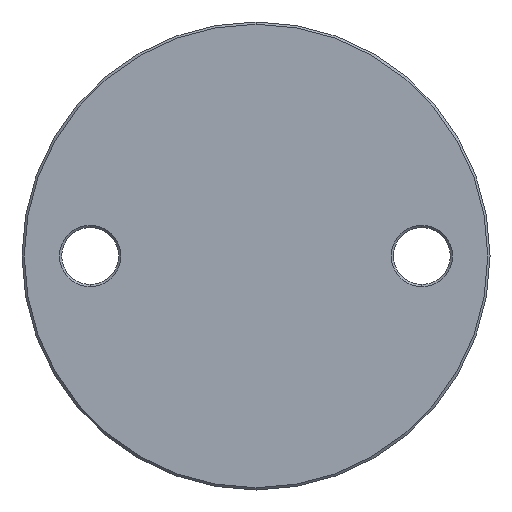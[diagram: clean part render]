
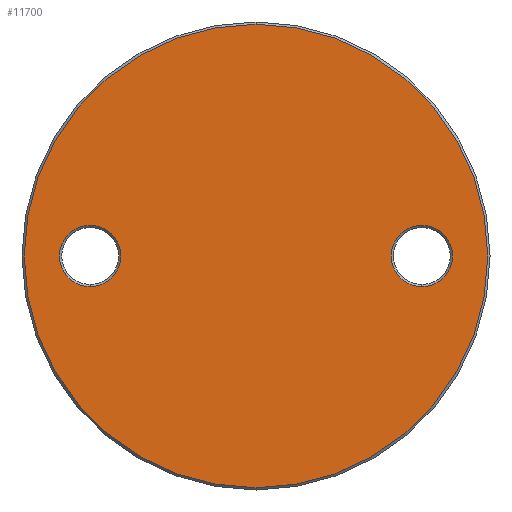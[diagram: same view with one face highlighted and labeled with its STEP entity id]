
A CAD part, front view. The second image highlights one B-rep face of the part: STEP entity #11700.
In plain terms, the highlighted planar face has unit normal (0, -1, 0).
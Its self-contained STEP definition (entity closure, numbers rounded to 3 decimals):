
#62 = EDGE_CURVE ( 'NONE', #4190, #419, #11125, .T. ) ;
#189 = FACE_BOUND ( 'NONE', #3993, .T. ) ;
#232 = DIRECTION ( 'NONE',  ( 0., -1., 0. ) ) ;
#270 = PLANE ( 'NONE',  #1344 ) ;
#334 = EDGE_CURVE ( 'NONE', #2981, #1339, #8506, .T. ) ;
#388 = AXIS2_PLACEMENT_3D ( 'NONE', #7726, #8601, #1216 ) ;
#419 = VERTEX_POINT ( 'NONE', #4248 ) ;
#458 = CARTESIAN_POINT ( 'NONE',  ( 0., -3., -51. ) ) ;
#492 = CARTESIAN_POINT ( 'NONE',  ( 0., -3., 51. ) ) ;
#817 = DIRECTION ( 'NONE',  ( 0., 0., -1. ) ) ;
#1216 = DIRECTION ( 'NONE',  ( 0., 0., -1. ) ) ;
#1271 = CARTESIAN_POINT ( 'NONE',  ( 36.5, -3., 6.75 ) ) ;
#1339 = VERTEX_POINT ( 'NONE', #1271 ) ;
#1344 = AXIS2_PLACEMENT_3D ( 'NONE', #5863, #232, #7679 ) ;
#1417 = ORIENTED_EDGE ( 'NONE', *, *, #4064, .T. ) ;
#1660 = DIRECTION ( 'NONE',  ( 0., 0., -1. ) ) ;
#1758 = CIRCLE ( 'NONE', #6139, 51. ) ;
#1779 = DIRECTION ( 'NONE',  ( 0., 1., 0. ) ) ;
#1796 = DIRECTION ( 'NONE',  ( 0., 0., -1. ) ) ;
#1900 = CARTESIAN_POINT ( 'NONE',  ( -36.5, -3., -6.75 ) ) ;
#2246 = CIRCLE ( 'NONE', #7119, 6.75 ) ;
#2266 = CARTESIAN_POINT ( 'NONE',  ( 36.5, -3., 0. ) ) ;
#2981 = VERTEX_POINT ( 'NONE', #9883 ) ;
#3067 = FACE_OUTER_BOUND ( 'NONE', #9411, .T. ) ;
#3993 = EDGE_LOOP ( 'NONE', ( #5553, #4461 ) ) ;
#4064 = EDGE_CURVE ( 'NONE', #419, #4190, #11148, .T. ) ;
#4190 = VERTEX_POINT ( 'NONE', #1900 ) ;
#4248 = CARTESIAN_POINT ( 'NONE',  ( -36.5, -3., 6.75 ) ) ;
#4337 = CARTESIAN_POINT ( 'NONE',  ( -36.5, -3., 0. ) ) ;
#4461 = ORIENTED_EDGE ( 'NONE', *, *, #8927, .T. ) ;
#4470 = CARTESIAN_POINT ( 'NONE',  ( 0., -3., 0. ) ) ;
#4822 = AXIS2_PLACEMENT_3D ( 'NONE', #4470, #10921, #1796 ) ;
#5094 = DIRECTION ( 'NONE',  ( 0., 0., -1. ) ) ;
#5553 = ORIENTED_EDGE ( 'NONE', *, *, #334, .T. ) ;
#5863 = CARTESIAN_POINT ( 'NONE',  ( 0., -3., 51.5 ) ) ;
#6139 = AXIS2_PLACEMENT_3D ( 'NONE', #11535, #6942, #5094 ) ;
#6942 = DIRECTION ( 'NONE',  ( 0., -1., 0. ) ) ;
#7028 = VERTEX_POINT ( 'NONE', #458 ) ;
#7119 = AXIS2_PLACEMENT_3D ( 'NONE', #2266, #9569, #7680 ) ;
#7254 = ORIENTED_EDGE ( 'NONE', *, *, #7657, .T. ) ;
#7657 = EDGE_CURVE ( 'NONE', #11817, #7028, #10788, .T. ) ;
#7673 = AXIS2_PLACEMENT_3D ( 'NONE', #9099, #1779, #1660 ) ;
#7679 = DIRECTION ( 'NONE',  ( 0., 0., -1. ) ) ;
#7680 = DIRECTION ( 'NONE',  ( 0., 0., -1. ) ) ;
#7726 = CARTESIAN_POINT ( 'NONE',  ( 36.5, -3., 0. ) ) ;
#7962 = FACE_BOUND ( 'NONE', #11172, .T. ) ;
#8506 = CIRCLE ( 'NONE', #388, 6.75 ) ;
#8601 = DIRECTION ( 'NONE',  ( 0., 1., 0. ) ) ;
#8927 = EDGE_CURVE ( 'NONE', #1339, #2981, #2246, .T. ) ;
#9099 = CARTESIAN_POINT ( 'NONE',  ( -36.5, -3., 0. ) ) ;
#9411 = EDGE_LOOP ( 'NONE', ( #7254, #9596 ) ) ;
#9569 = DIRECTION ( 'NONE',  ( 0., 1., 0. ) ) ;
#9596 = ORIENTED_EDGE ( 'NONE', *, *, #11159, .T. ) ;
#9883 = CARTESIAN_POINT ( 'NONE',  ( 36.5, -3., -6.75 ) ) ;
#10502 = AXIS2_PLACEMENT_3D ( 'NONE', #4337, #11732, #817 ) ;
#10788 = CIRCLE ( 'NONE', #4822, 51. ) ;
#10921 = DIRECTION ( 'NONE',  ( 0., -1., 0. ) ) ;
#11125 = CIRCLE ( 'NONE', #10502, 6.75 ) ;
#11148 = CIRCLE ( 'NONE', #7673, 6.75 ) ;
#11159 = EDGE_CURVE ( 'NONE', #7028, #11817, #1758, .T. ) ;
#11172 = EDGE_LOOP ( 'NONE', ( #11801, #1417 ) ) ;
#11535 = CARTESIAN_POINT ( 'NONE',  ( 0., -3., 0. ) ) ;
#11700 = ADVANCED_FACE ( 'NONE', ( #189, #7962, #3067 ), #270, .T. ) ;
#11732 = DIRECTION ( 'NONE',  ( 0., 1., 0. ) ) ;
#11801 = ORIENTED_EDGE ( 'NONE', *, *, #62, .T. ) ;
#11817 = VERTEX_POINT ( 'NONE', #492 ) ;
